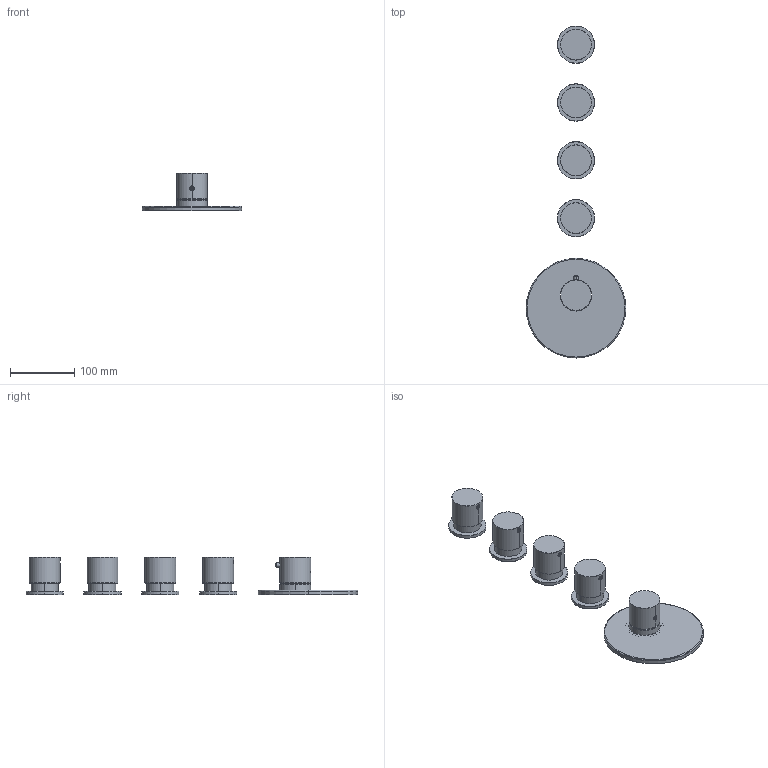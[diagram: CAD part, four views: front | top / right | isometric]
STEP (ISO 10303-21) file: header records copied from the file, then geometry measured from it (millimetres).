
FILE_DESCRIPTION((''),'2;1');
FILE_NAME('F3083X4INOX_FILE_3D','2019-07-25T',('ivanv'),(''),'CREO PARAMETRIC BY PTC INC, 2016260','CREO PARAMETRIC BY PTC INC, 2016260','');
FILE_SCHEMA(('CONFIG_CONTROL_DESIGN'));
Length unit declared in the file: millimetre
Products named in the file (1): F3083X4INOX_FILE_3D
Bounding box: 155 x 516.5 x 58 mm (x, y, z)
Volume: 230138.4 mm3; surface area: 184712.9 mm2
Topology: 12 solids, 16 shells, 602 faces, 1519 edges, 931 vertices
Faces by surface type: cylinder 226, cone 168, plane 162, torus 36, sphere 10
Entity records: 20554 total; most frequent: CARTESIAN_POINT 5777, DIRECTION 3251, ORIENTED_EDGE 3010, EDGE_CURVE 1505, AXIS2_PLACEMENT_3D 1328, VERTEX_POINT 931, CIRCLE 726, EDGE_LOOP 686
